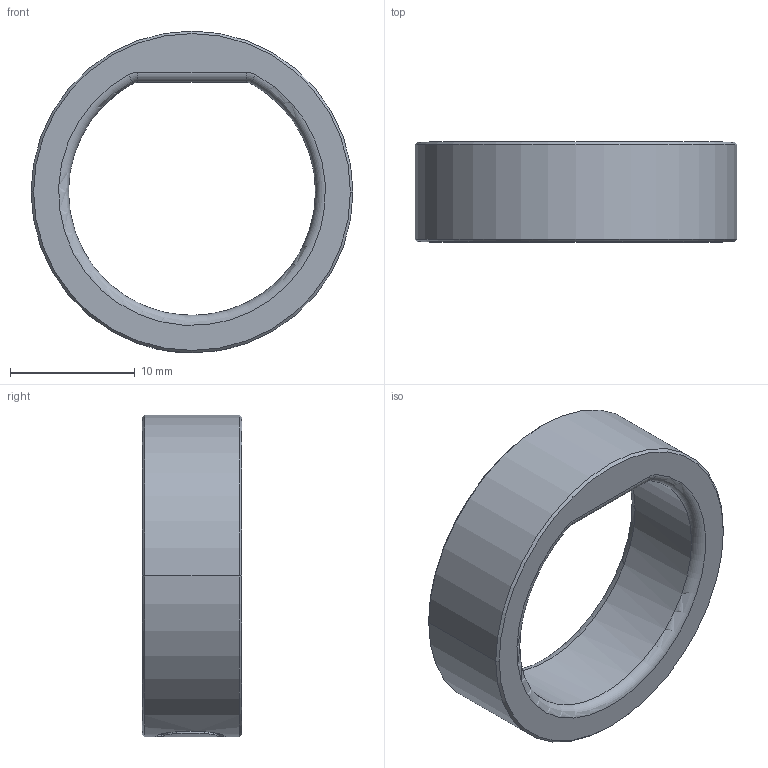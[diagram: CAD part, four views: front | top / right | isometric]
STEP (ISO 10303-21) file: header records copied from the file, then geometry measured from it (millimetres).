
FILE_DESCRIPTION((''),'2;1');
FILE_NAME('10','2026-09-02T10:17:59',('krisl'),(''),'CREO PARAMETRIC BY PTC INC, 2024063','CREO PARAMETRIC BY PTC INC, 2024063','');
FILE_SCHEMA(('CONFIG_CONTROL_DESIGN'));
Length unit declared in the file: millimetre
Products named in the file (1): 10
Bounding box: 25.8 x 8 x 25.8 mm (x, y, z)
Volume: 1749.9 mm3; surface area: 1533.6 mm2
Topology: 1 solids, 1 shells, 74 faces, 207 edges, 138 vertices
Faces by surface type: bspline 42, plane 12, cylinder 10, torus 6, cone 4
Entity records: 3258 total; most frequent: CARTESIAN_POINT 1534, ORIENTED_EDGE 414, DIRECTION 241, EDGE_CURVE 207, VERTEX_POINT 138, VECTOR 89, LINE 89, EDGE_LOOP 79
